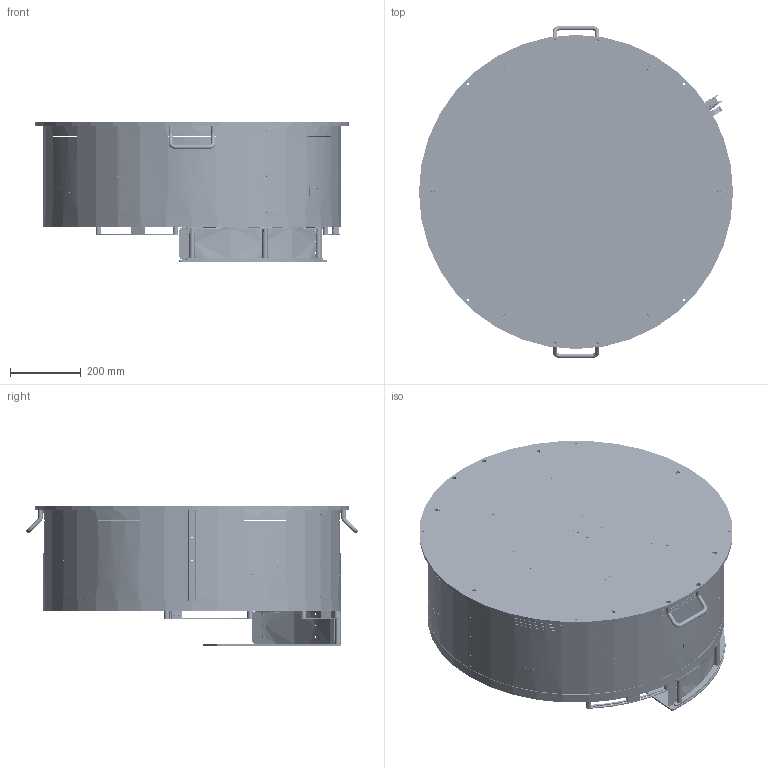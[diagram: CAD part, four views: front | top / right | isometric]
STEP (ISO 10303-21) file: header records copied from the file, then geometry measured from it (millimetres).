
FILE_DESCRIPTION (( 'STEP AP214' ), '1' );
FILE_NAME ('GM001086_FB800CC V2.2 Extended backlight area.STEP', '2025-09-23T07:24:25', ( '' ), ( '' ), 'SwSTEP 2.0', 'SolidWorks 2023', '' );
FILE_SCHEMA (( 'AUTOMOTIVE_DESIGN' ));
Length unit declared in the file: millimetre
Products named in the file (84): PD001101; PD006074; CM000001; CM000008_003; Copia di Led RDY_FLT^CE000326; PD001356; PD003221; PD001119; CE000007; Copia di CE000327^CE000327; PD001086; CE000420; PD000043; Copia di 2 - Copia^CE000322; CM000008; PD005625; PD004009; CE000326; CM000686_002; CE000005; Copia di Cavo line^CE000322; Copia di 39-01-2025^CE000327; Copia di 43025-1600^CE000463; CM000374; PD001428; PD005626; PD006084; PD005085_003; CM000015; PD001360_FB800; CE000030; Copia di Connettore te 2 poli - Copia^CE000463; CM000015_002; CM000008_002; Copia di 39-01-2025^CE000463; CE000322; PD005096; Copia di 43025-0600^CE000461; Copia di 3^CE000322; CM000686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
Assembly tree (109 placements, depth 3):
  GM001086_FB800CC V2.2 Extended backlight area
    CM000015  x2
      CM000015_001
      CM000015_002
    CM000424
    CM000099
    CE000327
      Copia di CE000327^CE000327
      Copia di 39-01-2025^CE000327
    CE000326
      Copia di Led RDY_FLT^CE000326
      Copia di 39-01-2045^CE000326
    CE000039
    CE000321
    CE000322
      Copia di 1^CE000322
      Copia di 2 - Copia (2)^CE000322
      Copia di 2 - Copia^CE000322  x4
      Copia di 3^CE000322
      Copia di Cavo line^CE000322
    CE000461
      Copia di CE000325^CE000461
      Copia di 43025-0600^CE000461
      Copia di Guaina^CE000461
    CE000463
      Copia di connector_a-ds_25_pp-f^CE000463
      Copia di Connettore te 2 poli - Copia^CE000463
      Copia di 39-01-2025^CE000463
      Copia di 43025-1600^CE000463
      Copia di Guaina^CE000463
    PD001086
    CM000001  x2
    PD005096
    PD006488  x5
    PD005104
    PD001356
    PD002027
    PD005085
      PD005085_001
      PD005085_003
      PD005085_002
    PD005103
    PD001087
    PD001101
    PD000043  x4
    PD001123  x2
    PD001119  x2
    PD001426
    PD004009
    PD004005
    PD001428
    PD000709
    PD001360_FB800
    CE000007
    CE000013  x2
    CE000005
    CM000008
      CM000008_001
      CM000008_003  x2
      CM000008_002
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Bounding box: 890 x 940.65 x 394.5 mm (x, y, z)
Volume: 14817295.7 mm3; surface area: 5423768.2 mm2
Topology: 130 solids, 149 shells, 14716 faces, 39573 edges, 25540 vertices
Faces by surface type: plane 6797, cylinder 4339, bspline 2247, cone 976, torus 296, sphere 61
Entity records: 674352 total; most frequent: CARTESIAN_POINT 342441, ORIENTED_EDGE 73984, DIRECTION 60153, EDGE_CURVE 37194, VERTEX_POINT 24200, AXIS2_PLACEMENT_3D 21598, VECTOR 16957, LINE 16957
